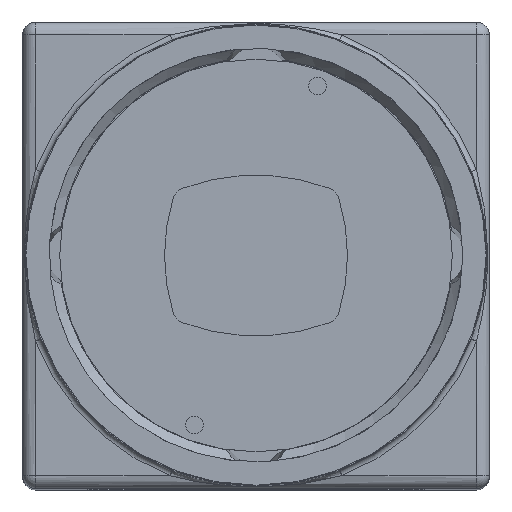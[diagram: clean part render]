
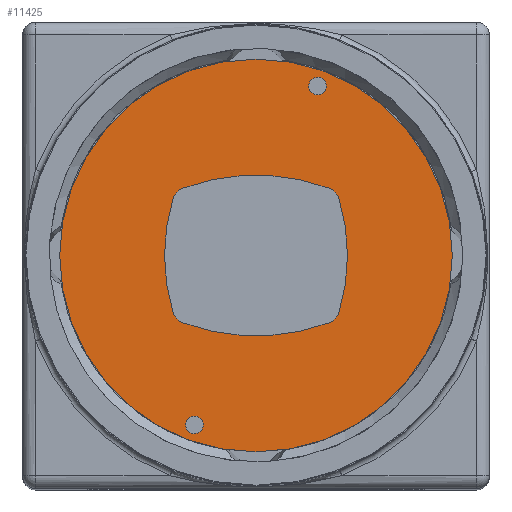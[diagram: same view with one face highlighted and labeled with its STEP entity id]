
A CAD part, top view. The second image highlights one B-rep face of the part: STEP entity #11425.
In plain terms, the highlighted planar face has unit normal (0, 0, 1).
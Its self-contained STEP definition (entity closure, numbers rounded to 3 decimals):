
#11425 = ADVANCED_FACE( '', ( #23545, #23546, #23547, #23548 ), #23549, .F. );
#23545 = FACE_BOUND( '', #40557, .T. );
#23546 = FACE_BOUND( '', #40558, .T. );
#23547 = FACE_BOUND( '', #40559, .T. );
#23548 = FACE_OUTER_BOUND( '', #40560, .T. );
#23549 = PLANE( '', #40561 );
#40557 = EDGE_LOOP( '', ( #65409 ) );
#40558 = EDGE_LOOP( '', ( #65410 ) );
#40559 = EDGE_LOOP( '', ( #65411, #65412, #65413, #65414, #65415, #65416, #65417, #65418 ) );
#40560 = EDGE_LOOP( '', ( #65419 ) );
#40561 = AXIS2_PLACEMENT_3D( '', #65420, #65421, #65422 );
#65409 = ORIENTED_EDGE( '', *, *, #74287, .T. );
#65410 = ORIENTED_EDGE( '', *, *, #69963, .T. );
#65411 = ORIENTED_EDGE( '', *, *, #72917, .T. );
#65412 = ORIENTED_EDGE( '', *, *, #69928, .T. );
#65413 = ORIENTED_EDGE( '', *, *, #73460, .T. );
#65414 = ORIENTED_EDGE( '', *, *, #76629, .T. );
#65415 = ORIENTED_EDGE( '', *, *, #76316, .T. );
#65416 = ORIENTED_EDGE( '', *, *, #71635, .T. );
#65417 = ORIENTED_EDGE( '', *, *, #73202, .T. );
#65418 = ORIENTED_EDGE( '', *, *, #75375, .T. );
#65419 = ORIENTED_EDGE( '', *, *, #76295, .F. );
#65420 = CARTESIAN_POINT( '', ( 1.907, 5.239, 5.8 ) );
#65421 = DIRECTION( '', ( 0., 0., -1. ) );
#65422 = DIRECTION( '', ( -1., 0., 0. ) );
#69928 = EDGE_CURVE( '', #78270, #78271, #78272, .T. );
#69963 = EDGE_CURVE( '', #78330, #78330, #78331, .T. );
#71635 = EDGE_CURVE( '', #81158, #81159, #81160, .T. );
#72917 = EDGE_CURVE( '', #83181, #78270, #83182, .T. );
#73202 = EDGE_CURVE( '', #81159, #83621, #83622, .T. );
#73460 = EDGE_CURVE( '', #78271, #84023, #84024, .T. );
#74287 = EDGE_CURVE( '', #85217, #85217, #85218, .T. );
#75375 = EDGE_CURVE( '', #83621, #83181, #86629, .T. );
#76295 = EDGE_CURVE( '', #87753, #87753, #87754, .T. );
#76316 = EDGE_CURVE( '', #87777, #81158, #87778, .T. );
#76629 = EDGE_CURVE( '', #84023, #87777, #88135, .T. );
#78270 = VERTEX_POINT( '', #90138 );
#78271 = VERTEX_POINT( '', #90139 );
#78272 = CIRCLE( '', #90140, 1. );
#78330 = VERTEX_POINT( '', #90215 );
#78331 = CIRCLE( '', #90216, 0.55 );
#81158 = VERTEX_POINT( '', #94418 );
#81159 = VERTEX_POINT( '', #94419 );
#81160 = CIRCLE( '', #94420, 1. );
#83181 = VERTEX_POINT( '', #97636 );
#83182 = CIRCLE( '', #97637, 12. );
#83621 = VERTEX_POINT( '', #98301 );
#83622 = CIRCLE( '', #98302, 13. );
#84023 = VERTEX_POINT( '', #99062 );
#84024 = CIRCLE( '', #99063, 13. );
#85217 = VERTEX_POINT( '', #100916 );
#85218 = CIRCLE( '', #100917, 0.55 );
#86629 = CIRCLE( '', #103097, 1. );
#87753 = VERTEX_POINT( '', #104822 );
#87754 = CIRCLE( '', #104823, 12.2 );
#87777 = VERTEX_POINT( '', #104855 );
#87778 = CIRCLE( '', #104856, 12. );
#88135 = CIRCLE( '', #105397, 1. );
#90138 = CARTESIAN_POINT( '', ( 5.153, -3.537, 5.8 ) );
#90139 = CARTESIAN_POINT( '', ( 4.548, -4.179, 5.8 ) );
#90140 = AXIS2_PLACEMENT_3D( '', #107337, #107338, #107339 );
#90215 = CARTESIAN_POINT( '', ( 3.831, 9.975, 5.8 ) );
#90216 = AXIS2_PLACEMENT_3D( '', #107384, #107385, #107386 );
#94418 = CARTESIAN_POINT( '', ( -5.153, 3.537, 5.8 ) );
#94419 = CARTESIAN_POINT( '', ( -4.548, 4.179, 5.8 ) );
#94420 = AXIS2_PLACEMENT_3D( '', #109321, #109322, #109323 );
#97636 = CARTESIAN_POINT( '', ( 5.153, 3.537, 5.8 ) );
#97637 = AXIS2_PLACEMENT_3D( '', #110788, #110789, #110790 );
#98301 = CARTESIAN_POINT( '', ( 4.548, 4.179, 5.8 ) );
#98302 = AXIS2_PLACEMENT_3D( '', #111141, #111142, #111143 );
#99062 = CARTESIAN_POINT( '', ( -4.548, -4.179, 5.8 ) );
#99063 = AXIS2_PLACEMENT_3D( '', #111386, #111387, #111388 );
#100916 = CARTESIAN_POINT( '', ( -3.831, -11.075, 5.8 ) );
#100917 = AXIS2_PLACEMENT_3D( '', #112260, #112261, #112262 );
#103097 = AXIS2_PLACEMENT_3D( '', #113271, #113272, #113273 );
#104822 = CARTESIAN_POINT( '', ( -12.2, 0., 5.8 ) );
#104823 = AXIS2_PLACEMENT_3D( '', #114095, #114096, #114097 );
#104855 = CARTESIAN_POINT( '', ( -5.153, -3.537, 5.8 ) );
#104856 = AXIS2_PLACEMENT_3D( '', #114107, #114108, #114109 );
#105397 = AXIS2_PLACEMENT_3D( '', #114354, #114355, #114356 );
#107337 = CARTESIAN_POINT( '', ( 4.198, -3.242, 5.8 ) );
#107338 = DIRECTION( '', ( 0., 0., -1. ) );
#107339 = DIRECTION( '', ( -1., 0., 0. ) );
#107384 = CARTESIAN_POINT( '', ( 3.831, 10.525, 5.8 ) );
#107385 = DIRECTION( '', ( 0., 0., -1. ) );
#107386 = DIRECTION( '', ( 0., -1., 0. ) );
#109321 = CARTESIAN_POINT( '', ( -4.198, 3.242, 5.8 ) );
#109322 = DIRECTION( '', ( 0., 0., -1. ) );
#109323 = DIRECTION( '', ( -1., 0., 0. ) );
#110788 = CARTESIAN_POINT( '', ( -6.314, 0., 5.8 ) );
#110789 = DIRECTION( '', ( 0., 0., -1. ) );
#110790 = DIRECTION( '', ( -1., 0., 0. ) );
#111141 = CARTESIAN_POINT( '', ( 0., -8., 5.8 ) );
#111142 = DIRECTION( '', ( 0., 0., -1. ) );
#111143 = DIRECTION( '', ( 1., 0., 0. ) );
#111386 = CARTESIAN_POINT( '', ( 0., 8., 5.8 ) );
#111387 = DIRECTION( '', ( 0., 0., -1. ) );
#111388 = DIRECTION( '', ( 1., 0., 0. ) );
#112260 = CARTESIAN_POINT( '', ( -3.831, -10.525, 5.8 ) );
#112261 = DIRECTION( '', ( 0., 0., -1. ) );
#112262 = DIRECTION( '', ( 0., -1., 0. ) );
#113271 = CARTESIAN_POINT( '', ( 4.198, 3.242, 5.8 ) );
#113272 = DIRECTION( '', ( 0., 0., -1. ) );
#113273 = DIRECTION( '', ( -1., 0., 0. ) );
#114095 = CARTESIAN_POINT( '', ( 0., 0., 5.8 ) );
#114096 = DIRECTION( '', ( 0., 0., -1. ) );
#114097 = DIRECTION( '', ( -1., 0., 0. ) );
#114107 = CARTESIAN_POINT( '', ( 6.314, 0., 5.8 ) );
#114108 = DIRECTION( '', ( 0., 0., -1. ) );
#114109 = DIRECTION( '', ( 1., 0., 0. ) );
#114354 = CARTESIAN_POINT( '', ( -4.198, -3.242, 5.8 ) );
#114355 = DIRECTION( '', ( 0., 0., -1. ) );
#114356 = DIRECTION( '', ( -1., 0., 0. ) );
